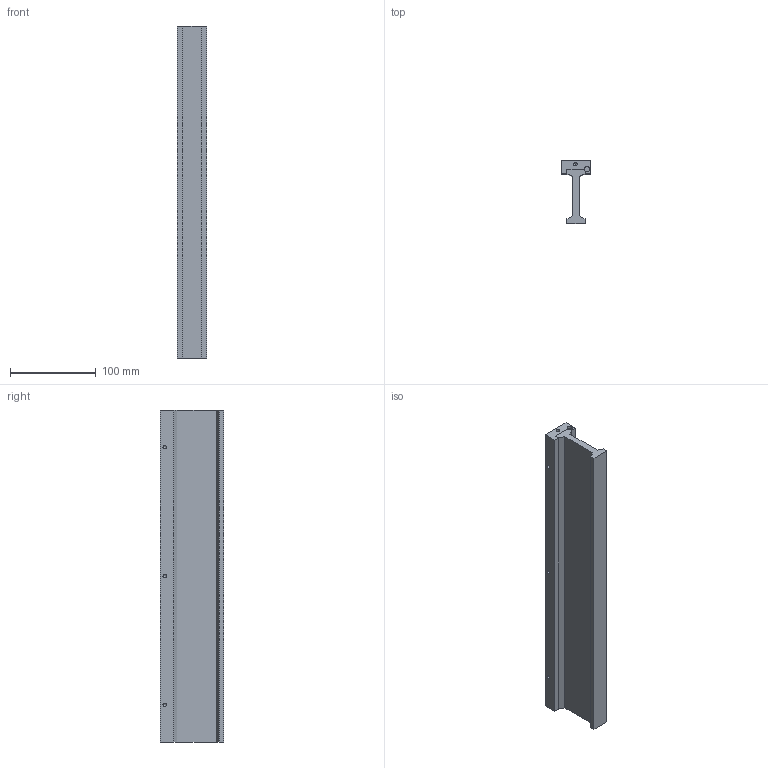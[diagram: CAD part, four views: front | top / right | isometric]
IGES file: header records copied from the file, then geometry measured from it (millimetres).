
Global section: file name: No Iges File Name specified; native system: AutoDesk Inventor R11.0; preprocessor: AutoDesk Inventor Iges Exporter R11.0; author: No Author specified; organization: No Organization specified; date: 20080205.101100; units: inch
Bounding box: 34.29 x 73.66 x 386.08 mm (x, y, z)
Volume: 429246.2 mm3; surface area: 92467.2 mm2
Topology: 1 solids, 1 shells, 41 faces, 105 edges, 61 vertices
Faces by surface type: bspline 20, plane 19, revolution 2
